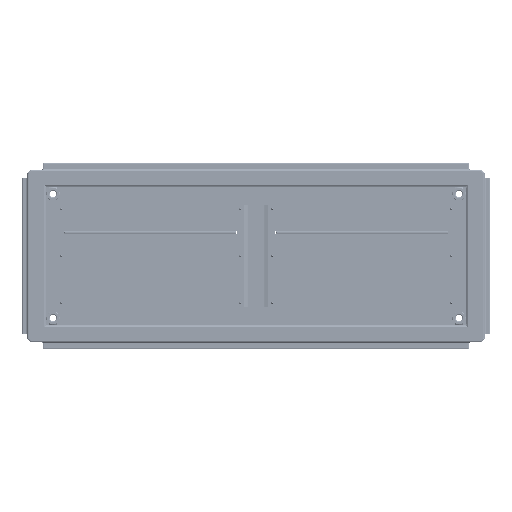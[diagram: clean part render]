
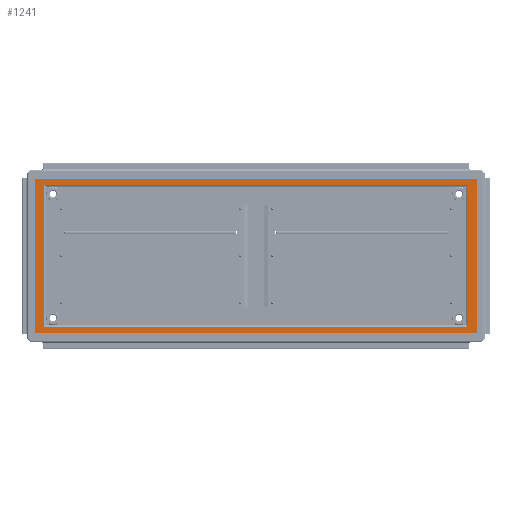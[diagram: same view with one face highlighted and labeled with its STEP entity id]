
A CAD part, front view. The second image highlights one B-rep face of the part: STEP entity #1241.
In plain terms, the highlighted planar face has unit normal (0, -1, 0).
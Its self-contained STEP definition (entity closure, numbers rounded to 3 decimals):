
#1241=ADVANCED_FACE('',(#32676,#32678),#32680,.T.);
#32676=FACE_BOUND('',#32677,.T.);
#32677=EDGE_LOOP('',(#113545,#113546,#113547,#113548));
#32678=FACE_BOUND('',#32679,.T.);
#32679=EDGE_LOOP('',(#113549,#113550,#113551,#113552));
#32680=PLANE('',#32681);
#32681=AXIS2_PLACEMENT_3D('',#32682,#32683,#32684);
#32682=CARTESIAN_POINT('',(-359.9,1.,-20.899));
#32683=DIRECTION('',(0.,-1.,0.));
#32684=DIRECTION('',(0.,0.,-1.));
#113545=ORIENTED_EDGE('',*,*,#160847,.F.);
#113546=ORIENTED_EDGE('',*,*,#160848,.T.);
#113547=ORIENTED_EDGE('',*,*,#160849,.T.);
#113548=ORIENTED_EDGE('',*,*,#160850,.F.);
#113549=ORIENTED_EDGE('',*,*,#160851,.T.);
#113550=ORIENTED_EDGE('',*,*,#160852,.T.);
#113551=ORIENTED_EDGE('',*,*,#160853,.F.);
#113552=ORIENTED_EDGE('',*,*,#160854,.T.);
#160847=EDGE_CURVE('',#184598,#184599,#184600,.T.);
#160848=EDGE_CURVE('',#184598,#184601,#184602,.T.);
#160849=EDGE_CURVE('',#184601,#184603,#184604,.T.);
#160850=EDGE_CURVE('',#184599,#184603,#184605,.T.);
#160851=EDGE_CURVE('',#184606,#184607,#184608,.T.);
#160852=EDGE_CURVE('',#184607,#184609,#184610,.T.);
#160853=EDGE_CURVE('',#184611,#184609,#184612,.T.);
#160854=EDGE_CURVE('',#184611,#184606,#184613,.T.);
#184598=VERTEX_POINT('',#225374);
#184599=VERTEX_POINT('',#225375);
#184600=LINE('',#225376,#225377);
#184601=VERTEX_POINT('',#225379);
#184602=LINE('',#225380,#225381);
#184603=VERTEX_POINT('',#225383);
#184604=LINE('',#225384,#225385);
#184605=LINE('',#225387,#225388);
#184606=VERTEX_POINT('',#225390);
#184607=VERTEX_POINT('',#225391);
#184608=LINE('',#225392,#225393);
#184609=VERTEX_POINT('',#225395);
#184610=LINE('',#225396,#225397);
#184611=VERTEX_POINT('',#225399);
#184612=LINE('',#225400,#225401);
#184613=LINE('',#225403,#225404);
#225374=CARTESIAN_POINT('',(-382.591,1.,-20.899));
#225375=CARTESIAN_POINT('',(557.591,1.,-20.899));
#225376=CARTESIAN_POINT('',(-382.591,1.,-20.899));
#225377=VECTOR('',#225378,1.);
#225378=DIRECTION('',(1.,0.,0.));
#225379=CARTESIAN_POINT('',(-382.591,1.,-347.101));
#225380=CARTESIAN_POINT('',(-382.591,1.,-20.899));
#225381=VECTOR('',#225382,1.);
#225382=DIRECTION('',(0.,0.,-1.));
#225383=CARTESIAN_POINT('',(557.591,1.,-347.101));
#225384=CARTESIAN_POINT('',(-382.591,1.,-347.101));
#225385=VECTOR('',#225386,1.);
#225386=DIRECTION('',(1.,0.,0.));
#225387=CARTESIAN_POINT('',(557.591,1.,-20.899));
#225388=VECTOR('',#225389,1.);
#225389=DIRECTION('',(0.,0.,-1.));
#225390=CARTESIAN_POINT('',(-364.6,1.,-31.9));
#225391=CARTESIAN_POINT('',(539.6,1.,-31.9));
#225392=CARTESIAN_POINT('',(-364.6,1.,-31.9));
#225393=VECTOR('',#225394,1.);
#225394=DIRECTION('',(1.,0.,0.));
#225395=CARTESIAN_POINT('',(539.6,1.,-336.1));
#225396=CARTESIAN_POINT('',(539.6,1.,-31.9));
#225397=VECTOR('',#225398,1.);
#225398=DIRECTION('',(0.,0.,-1.));
#225399=CARTESIAN_POINT('',(-364.6,1.,-336.1));
#225400=CARTESIAN_POINT('',(-364.6,1.,-336.1));
#225401=VECTOR('',#225402,1.);
#225402=DIRECTION('',(1.,0.,0.));
#225403=CARTESIAN_POINT('',(-364.6,1.,-336.1));
#225404=VECTOR('',#225405,1.);
#225405=DIRECTION('',(0.,0.,1.));
